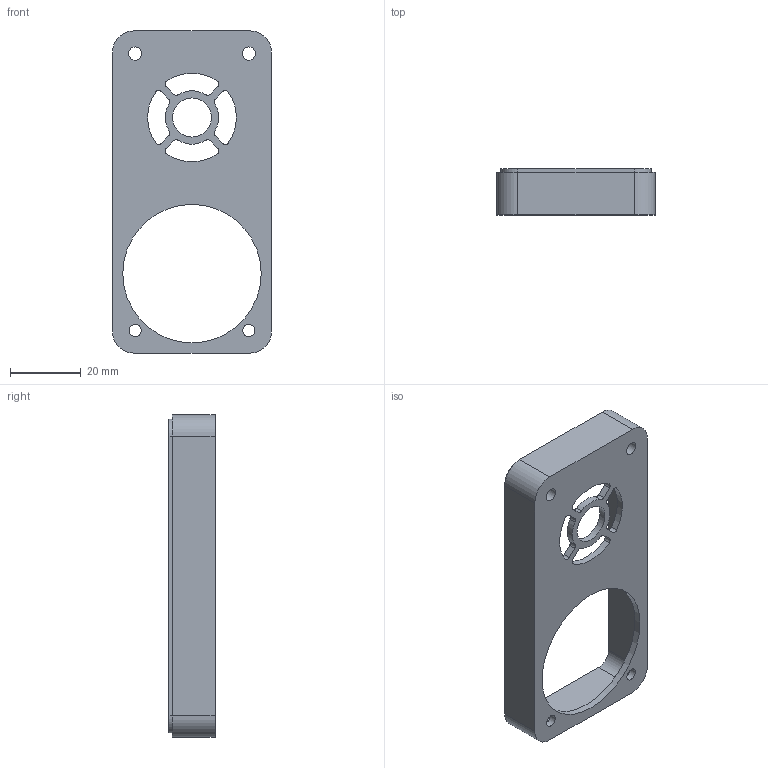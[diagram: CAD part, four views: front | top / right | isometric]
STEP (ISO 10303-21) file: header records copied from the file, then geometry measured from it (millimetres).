
FILE_DESCRIPTION(/* description */ (''),/* implementation_level */ '2;1');
FILE_NAME(/* name */ 'HEATER 1 FAN FRONT SHELL.step',/* time_stamp */ '2024-02-28T16:57:47Z',/* author */ (''),/* organization */ (''),/* preprocessor_version */ 'ST-DEVELOPER v20',/* originating_system */ 'Autodesk Translation Framework v12.20.1.177',/* authorisation */ '');
FILE_SCHEMA (('AUTOMOTIVE_DESIGN { 1 0 10303 214 3 1 1 }'));
Length unit declared in the file: millimetre
Products named in the file (1): HEATER 1 FAN FRONT SHELL
Bounding box: 44.8 x 13 x 90.8 mm (x, y, z)
Volume: 12445.3 mm3; surface area: 11826.8 mm2
Topology: 1 solids, 1 shells, 70 faces, 198 edges, 132 vertices
Faces by surface type: cylinder 30, plane 24, bspline 16
Full cylindrical faces by diameter (mm): 3.45 x2, 3.75 x2, 11 x1, 39 x1
Entity records: 3306 total; most frequent: CARTESIAN_POINT 1457, ORIENTED_EDGE 396, DIRECTION 336, EDGE_CURVE 198, VERTEX_POINT 132, AXIS2_PLACEMENT_3D 115, LINE 106, VECTOR 106
